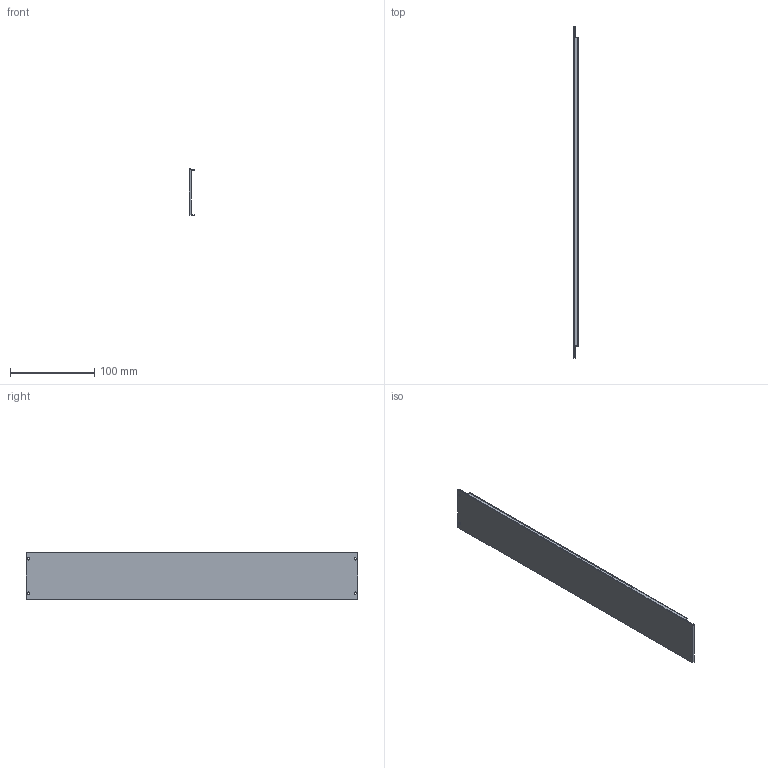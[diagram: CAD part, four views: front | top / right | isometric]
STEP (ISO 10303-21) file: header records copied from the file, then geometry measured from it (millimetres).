
FILE_DESCRIPTION(/* description */ (''),/* implementation_level */ '2;1');
FILE_NAME(/* name */ '015759_01-APSPU_blindpanel.stp',/* time_stamp */ '2023-05-30T09:04:57+02:00',/* author */ (''),/* organization */ (''),/* preprocessor_version */ 'ST-DEVELOPER v18.1',/* originating_system */ 'SIEMENS PLM Software NX 1973',/* authorisation */ '');
FILE_SCHEMA (('AUTOMOTIVE_DESIGN { 1 0 10303 214 3 1 1 1 }'));
Length unit declared in the file: millimetre
Products named in the file (1): 015759_01-APSPU_blindpanel
Bounding box: 6.2 x 395.1 x 55.54 mm (x, y, z)
Volume: 56459.5 mm3; surface area: 51469.1 mm2
Topology: 1 solids, 1 shells, 28 faces, 78 edges, 52 vertices
Faces by surface type: plane 19, cylinder 9
Full cylindrical faces by diameter (mm): 2.7 x4
Entity records: 1033 total; most frequent: CARTESIAN_POINT 155, DIRECTION 150, ORIENTED_EDGE 148, EDGE_CURVE 74, LINE 56, VECTOR 56, VERTEX_POINT 52, AXIS2_PLACEMENT_3D 47
